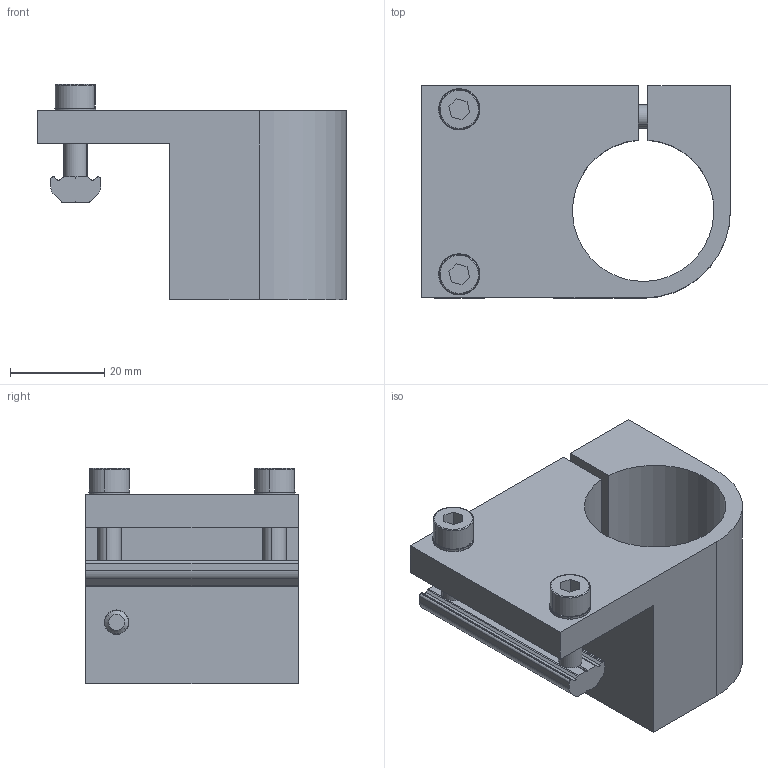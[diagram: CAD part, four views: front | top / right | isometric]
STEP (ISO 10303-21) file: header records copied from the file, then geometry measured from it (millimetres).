
FILE_DESCRIPTION (( 'STEP AP214' ), '1' );
FILE_NAME ('SMBE4-3020.STEP', '2019-11-06T01:10:41', ( '微软用户' ), ( '微软中国' ), 'SwSTEP 2.0', 'SolidWorks 2016', '' );
FILE_SCHEMA (( 'AUTOMOTIVE_DESIGN' ));
Length unit declared in the file: millimetre
Products named in the file (1): SMBE4-3020
Bounding box: 65.5 x 45 x 45.6 mm (x, y, z)
Volume: 46448.8 mm3; surface area: 19827.4 mm2
Topology: 8 solids, 8 shells, 719 faces, 2083 edges, 1376 vertices
Faces by surface type: plane 650, cylinder 57, cone 6, bspline 6
Entity records: 32285 total; most frequent: CARTESIAN_POINT 4762, ORIENTED_EDGE 4166, DIRECTION 4145, EDGE_CURVE 2083, AXIS2_PLACEMENT_3D 1386, VERTEX_POINT 1376, LINE 1373, VECTOR 1373
